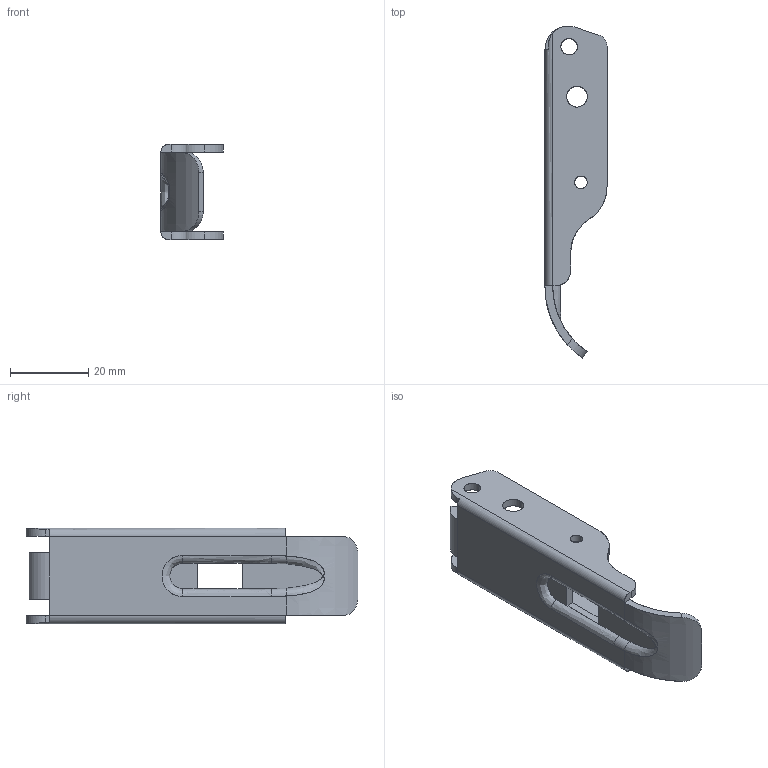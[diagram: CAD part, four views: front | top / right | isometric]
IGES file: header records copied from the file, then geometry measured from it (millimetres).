
Start section: SolidWorks IGES FILE using analytic representation for surfaces
Global section: file name: C:\Documents and Settings\lecoutey\Bureau\GP 75\52.010.10.IGS; native system: SolidWorks 2004 by SolidWorks Corporation; preprocessor: Version 5.3; author: lecoutey; date: 050329.141549; units: millimetre
Bounding box: 15.9 x 84.96 x 24.4 mm (x, y, z)
Surface area: 7395.8 mm2 (no closed solid volume)
Topology: 0 solids, 0 shells, 74 faces, 1227 edges, 1227 vertices
Faces by surface type: bspline 40, revolution 34
